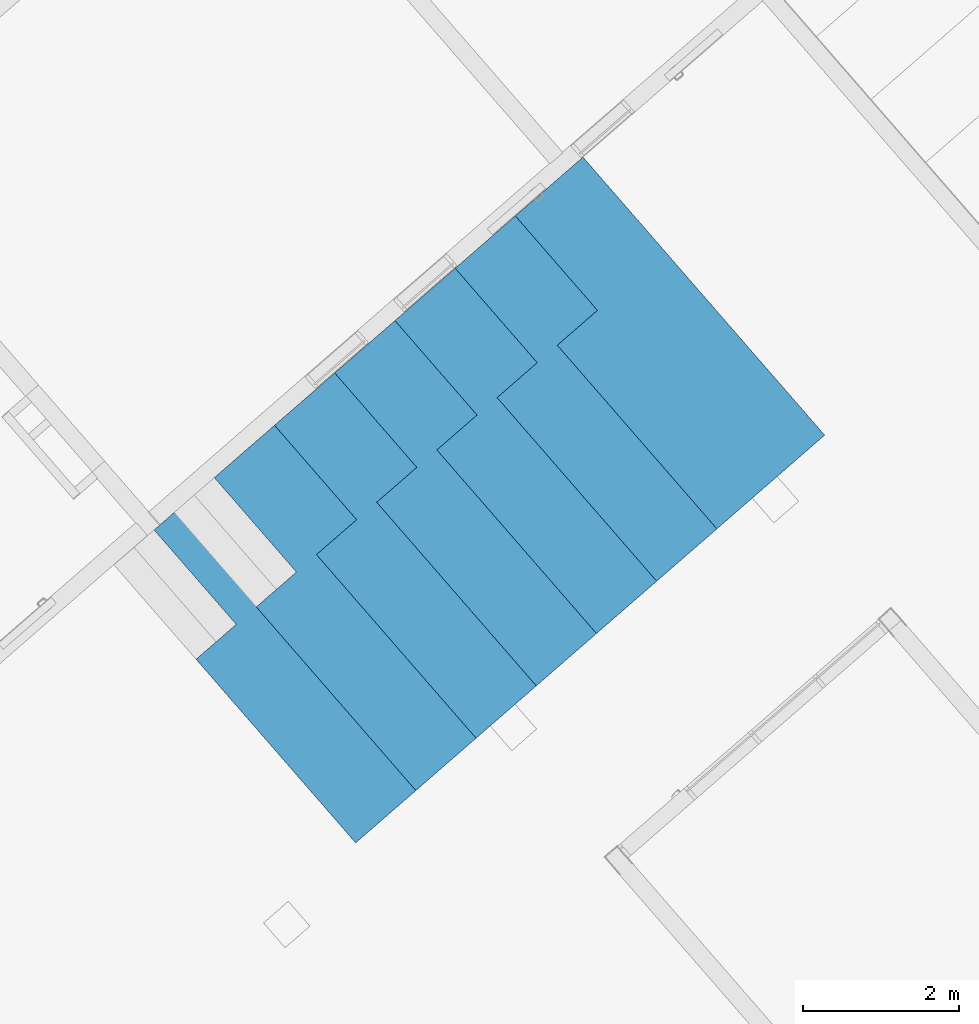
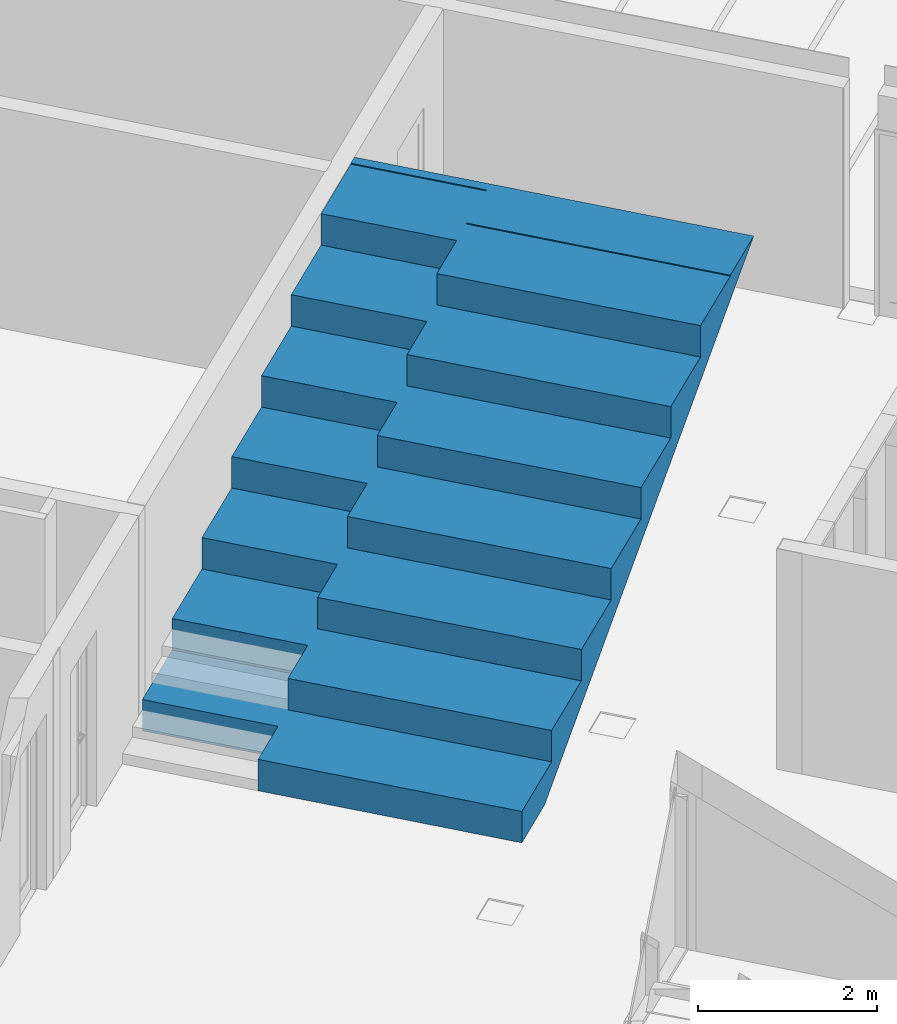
# One storey, part 103 of 124: 1 stair, 1 element without a shape of its own.
"""IFC2X3 building model written with IfcOpenShell, lengths in millimetres."""

from ifc_helpers import new_model, entity, si_unit, converted_unit, derived_unit, money_unit, direction, frame, origin_with_axes, place, context, subcontext, project, spatial, faceted_brep, material, element, aggregate, save


model = new_model("IFC2X3")

# Units and contexts
model_context = context("Model", 3, precision=1e-05, world=origin_with_axes(), true_north=direction((0.0, 1.0)))
body_context = subcontext(model_context, "Body", "Model", "MODEL_VIEW")
ifc_project = project(units=[si_unit("LENGTHUNIT", "METRE", prefix="MILLI"), si_unit("AREAUNIT", "SQUARE_METRE"), si_unit("VOLUMEUNIT", "CUBIC_METRE"), converted_unit("PLANEANGLEUNIT", "DEGREE", entity("IfcPlaneAngleMeasure", 0.0174532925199), si_unit("PLANEANGLEUNIT", "RADIAN"), dimensions=[0, 0, 0, 0, 0, 0, 0]), si_unit("SOLIDANGLEUNIT", "STERADIAN"), money_unit("EUR"), converted_unit("TIMEUNIT", "Year", entity("IfcTimeMeasure", 31556926.0), si_unit("TIMEUNIT", "SECOND"), dimensions=[0, 0, 1, 0, 0, 0, 0]), si_unit("MASSUNIT", "GRAM", prefix="KILO"), si_unit("THERMODYNAMICTEMPERATUREUNIT", "DEGREE_CELSIUS"), si_unit("LUMINOUSINTENSITYUNIT", "LUMEN"), si_unit("ENERGYUNIT", "JOULE", prefix="MEGA"), derived_unit("THERMALCONDUCTANCEUNIT", [(si_unit("POWERUNIT", "WATT"), 1), (si_unit("LENGTHUNIT", "METRE"), -1), (si_unit("THERMODYNAMICTEMPERATUREUNIT", "KELVIN"), -1)]), derived_unit("SPECIFICHEATCAPACITYUNIT", [(si_unit("ENERGYUNIT", "JOULE"), 1), (si_unit("MASSUNIT", "GRAM", prefix="KILO"), -1), (si_unit("THERMODYNAMICTEMPERATUREUNIT", "KELVIN"), -1)]), derived_unit("MASSDENSITYUNIT", [(si_unit("MASSUNIT", "GRAM", prefix="KILO"), 1), (si_unit("VOLUMEUNIT", "CUBIC_METRE"), -1)])], contexts=[model_context])

# Site, building, storey
site_placement = place(None, origin_with_axes())
site = spatial("IfcSite", under=ifc_project, at=site_placement, Name="Site", CompositionType="ELEMENT")
building_placement = place(site_placement, origin_with_axes())
building = spatial("IfcBuilding", under=site, at=building_placement, Name="Building", CompositionType="ELEMENT")
storey_placement = place(building_placement, frame((0.0, 0.0, -1615.0), z_axis=(0.0, 0.0, 1.0), x_axis=(1.0, 0.0, 0.0)))
storey = spatial("IfcBuildingStorey", under=building, at=storey_placement, Name="0  korrus", CompositionType="ELEMENT", Elevation=-1615.0)

# Stairs
stair_1_placement = place(storey_placement, frame((155389.01419, 96207.2876468, 0.0), z_axis=(0.0, 0.0, 1.0), x_axis=(0.891006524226, -0.453990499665, 0.0)))
stair_1 = element("IfcStair", 1, at=stair_1_placement, inside=storey, Name="T-03", ShapeType="NOTDEFINED")
ifc_material = material(Name="GENEERILINE - KONSTRUKTRIOON")
stair_2_placement = place(stair_1_placement, origin_with_axes())
stair_2 = element("IfcStair", 2, at=stair_2_placement, material=ifc_material, Name="GENEERILINE - KONSTRUKTRIOON", ShapeType="NOTDEFINED", context=body_context, shape_type="Brep", body=[
    faceted_brep([(4700.06252842, -1046.9060522, 2.10889083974e-08), (4991.16282476, -326.408590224, 2.20206075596e-08), (4995.32100582, -316.116746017, 4.6454520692), (5012.68915155, -273.129139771, 24.0488611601), (5030.05729728, -230.141533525, 43.452270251), (5047.42544301, -187.153927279, 62.8556793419), (5064.79358874, -144.166321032, 82.2590884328), (5082.16173447, -101.178714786, 101.662497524), (5099.5298802, -58.1911085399, 121.065906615), (5116.89802593, -15.2035022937, 140.469315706), (5134.26617166, 27.7841039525, 159.872724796), (5151.63431739, 70.7717101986, 179.276133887), (5169.00246311, 113.759316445, 198.679542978), (5186.37060884, 156.746922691, 218.082952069), (5203.73875457, 199.734528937, 237.48636116), (5221.1069003, 242.722135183, 256.889770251), (5238.47504603, 285.70974143, 276.293179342), (5255.84319176, 328.697347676, 295.696588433), (5273.21133749, 371.684953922, 315.099997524), (5290.57948322, 414.672560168, 334.503406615), (5307.94762895, 457.660166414, 353.906815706), (5325.31577468, 500.647772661, 373.310224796), (5342.68392041, 543.635378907, 392.713633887), (5360.05206614, 586.622985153, 412.117042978), (5377.42021187, 629.610591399, 431.520452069), (5394.7883576, 672.598197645, 450.92386116), (5412.15650333, 715.585803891, 470.327270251), (5429.52464906, 758.573410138, 489.730679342), (5446.89279479, 801.561016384, 509.134088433), (5464.26094052, 844.54862263, 528.537497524), (5481.62908625, 887.536228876, 547.940906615), (5498.99723198, 930.523835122, 567.344315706), (5516.36537771, 973.511441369, 586.747724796), (5533.73352344, 1016.49904761, 606.151133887), (5551.10166916, 1059.48665386, 625.554542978), (5568.46981489, 1102.47426011, 644.957952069), (5585.83796062, 1145.46186635, 664.36136116), (5603.20610635, 1188.4494726, 683.764770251), (5620.57425208, 1231.43707885, 703.168179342), (5637.94239781, 1274.42468509, 722.571588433), (5655.31054354, 1317.41229134, 741.974997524), (5672.67868927, 1360.39989758, 761.378406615), (5690.046835, 1403.38750383, 780.781815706), (5707.41498073, 1446.37511008, 800.185224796), (5724.78312646, 1489.36271632, 819.588633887), (5742.15127219, 1532.35032257, 838.992042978), (5759.51941792, 1575.33792882, 858.395452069), (5776.88756365, 1618.32553506, 877.79886116), (5794.25570938, 1661.31314131, 897.202270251), (5811.62385511, 1704.30074755, 916.605679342), (5828.99200084, 1747.2883538, 936.009088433), (5846.36014657, 1790.27596005, 955.412497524), (5863.7282923, 1833.26356629, 974.815906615), (5881.09643803, 1876.25117254, 994.219315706), (5898.46458376, 1919.23877878, 1013.6227248), (5915.83272949, 1962.22638503, 1033.02613389), (5933.20087521, 2005.21399128, 1052.42954298), (5950.56902094, 2048.20159752, 1071.83295207), (5967.93716667, 2091.18920377, 1091.23636116), (5985.3053124, 2134.17681002, 1110.63977025), (6002.67345813, 2177.16441626, 1130.04317934), (6020.04160386, 2220.15202251, 1149.44658843), (6037.40974959, 2263.13962875, 1168.84999752), (6054.77789532, 2306.127235, 1188.25340661), (6072.14604105, 2349.11484125, 1207.65681571), (6089.51418678, 2392.10244749, 1227.0602248), (6106.88233251, 2435.09005374, 1246.46363389), (6124.25047824, 2478.07765999, 1265.86704298), (6141.61862397, 2521.06526623, 1285.27045207), (6158.9867697, 2564.05287248, 1304.67386116), (6176.35491543, 2607.04047872, 1324.07727025), (6193.72306116, 2650.02808497, 1343.48067934), (6211.09120689, 2693.01569122, 1362.88408843), (6228.45935262, 2736.00329746, 1382.28749752), (6245.82749835, 2778.99090371, 1401.69090661), (6263.19564408, 2821.97850995, 1421.09431571), (6280.56378981, 2864.9661162, 1440.4977248), (6297.93193554, 2907.95372245, 1459.90113389), (6315.30008126, 2950.94132869, 1479.30454298), (6332.66822699, 2993.92893494, 1498.70795207), (6350.03637272, 3036.91654119, 1518.11136116), (6367.40451845, 3079.90414743, 1537.51477025), (6384.77266418, 3122.89175368, 1556.91817934), (6402.14080991, 3165.87935992, 1576.32158843), (6419.50895564, 3208.86696617, 1595.72499752), (6436.87710137, 3251.85457242, 1615.12840661), (6454.2452471, 3294.84217866, 1634.53181571), (6471.61339283, 3337.82978491, 1653.9352248), (6488.98153856, 3380.81739116, 1673.33863389), (6506.34968429, 3423.8049974, 1692.74204298), (6523.71783002, 3466.79260365, 1712.14545207), (6541.08597575, 3509.78020989, 1731.54886116), (6558.45412148, 3552.76781614, 1750.95227025), (6575.82226721, 3595.75542239, 1770.35567934), (6593.19041294, 3638.74302863, 1789.75908843), (6610.55855867, 3681.73063488, 1809.16249752), (6627.9267044, 3724.71824112, 1828.56590661), (6645.29485013, 3767.70584737, 1847.96931571), (6662.66299586, 3810.69345362, 1867.3727248), (6680.03114159, 3853.68105986, 1886.77613389), (6697.39928731, 3896.66866611, 1906.17954298), (6714.76743304, 3939.65627236, 1925.58295207), (6732.13557877, 3982.6438786, 1944.98636116), (6749.5037245, 4025.63148485, 1964.38977025), (6766.87187023, 4068.61909109, 1983.79317934), (6784.24001596, 4111.60669734, 2003.19658843), (6801.60816169, 4154.59430359, 2022.59999752), (6818.97630742, 4197.58190983, 2042.00340661), (6836.34445315, 4240.56951608, 2061.40681571), (6853.71259888, 4283.55712233, 2080.8102248), (6871.08074461, 4326.54472857, 2100.21363389), (6888.44889034, 4369.53233482, 2119.61704298), (6905.81703607, 4412.51994106, 2139.02045207), (6923.1851818, 4455.50754731, 2158.42386116), (6940.55332753, 4498.49515356, 2177.82727025), (6957.92147326, 4541.4827598, 2197.23067934), (6975.28961899, 4584.47036605, 2216.63408843), (6992.65776472, 4627.45797229, 2236.03749752), (7010.02591045, 4670.44557854, 2255.44090661), (7027.39405618, 4713.43318479, 2274.84431571), (7044.76220191, 4756.42079103, 2294.2477248), (7062.13034764, 4799.40839728, 2313.65113389), (7079.49849336, 4842.39600353, 2333.05454298), (7096.86663909, 4885.38360977, 2352.45795207), (7114.23478482, 4928.37121602, 2371.86136116), (7131.60293055, 4971.35882226, 2391.26477025), (7148.97107628, 5014.34642851, 2410.66817934), (7166.33922201, 5057.33403476, 2430.07158843), (7183.70736774, 5100.321641, 2449.47499752), (7201.07551347, 5143.30924725, 2468.87840661), (7218.4436592, 5186.29685349, 2488.28181571), (7235.81180493, 5229.28445974, 2507.6852248), (7253.17995066, 5272.27206599, 2527.08863389), (7270.54809639, 5315.25967223, 2546.49204298), (7287.91624212, 5358.24727848, 2565.89545207), (7305.28438785, 5401.23488473, 2585.29886116), (7322.65253358, 5444.22249097, 2604.70227025), (7340.02067931, 5487.21009722, 2624.10567934), (7357.38882504, 5530.19770346, 2643.50908843), (7374.75666145, 5573.18543468, 2662.91249752), (7676.48612042, 6319.99166208, 3000.0), (7374.75703968, 5573.18548027, 3000.0), (7374.75697077, 5573.18530971, 2988.125), (6992.65776472, 4627.45797229, 2988.125), (6992.65776472, 4627.45797229, 2561.25), (6610.55855867, 3681.73063488, 2561.25), (6610.55855867, 3681.73063488, 2134.375), (6228.45935262, 2736.00329746, 2134.375), (6228.45935262, 2736.00329746, 1707.5), (5846.36014657, 1790.27596005, 1707.5), (5846.36014657, 1790.27596005, 1280.625), (5464.26094052, 844.54862263, 1280.625), (5464.26094052, 844.54862263, 853.75), (5082.16173447, -101.178714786, 853.75), (5082.16173447, -101.178714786, 426.875), (4700.06252842, -1046.9060522, 426.875), (4468.39752874, -115.197703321, 2.20177209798e-08), (1816.52070249, 118.12045416, 2.1073365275e-08), (2071.25318818, 748.605474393, 2.18884910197e-08), (587.759033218, 1347.97603747, -5.59476909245e-08), (624.126470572, 1437.98860373, -5.61108937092e-08), (1146.89178798, 1226.77770838, 2.19997353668e-08), (2829.17097151, 609.069458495, 24.0488611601), (2863.90724096, 695.044679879, 62.8556793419), (2898.64351041, 781.019901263, 101.662497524), (2933.37977986, 866.995122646, 140.469315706), (2968.11604932, 952.97034403, 179.276133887), (3002.85231877, 1038.94556541, 218.082952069), (3037.58858822, 1124.9207868, 256.889770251), (3072.32485767, 1210.89600818, 295.696588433), (3107.06112713, 1296.87122957, 334.503406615), (3141.79739658, 1382.84645095, 373.310224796), (3176.53366603, 1468.82167233, 412.117042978), (3211.26993548, 1554.79689372, 450.92386116), (3246.00620493, 1640.7721151, 489.730679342), (3280.74247439, 1726.74733648, 528.537497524), (3315.47874384, 1812.72255787, 567.344315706), (3350.21501329, 1898.69777925, 606.151133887), (3384.95128274, 1984.67300063, 644.957952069), (3419.6875522, 2070.64822202, 683.764770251), (3454.42382165, 2156.6234434, 722.571588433), (3489.1600911, 2242.59866479, 761.378406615), (3523.89636055, 2328.57388617, 800.185224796), (3558.63263, 2414.54910755, 838.992042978), (3593.36889946, 2500.52432894, 877.79886116), (3628.10516891, 2586.49955032, 916.605679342), (3662.84143836, 2672.4747717, 955.412497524), (3697.57770781, 2758.44999309, 994.219315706), (3732.31397727, 2844.42521447, 1033.02613389), (3767.05024672, 2930.40043586, 1071.83295207), (3801.78651617, 3016.37565724, 1110.63977025), (3836.52278562, 3102.35087862, 1149.44658843), (3871.25905507, 3188.32610001, 1188.25340661), (3905.99532453, 3274.30132139, 1227.0602248), (3940.73159398, 3360.27654277, 1265.86704298), (3975.46786343, 3446.25176416, 1304.67386116), (4010.20413288, 3532.22698554, 1343.48067934), (4044.94040234, 3618.20220693, 1382.28749752), (4079.67667179, 3704.17742831, 1421.09431571), (4114.41294124, 3790.15264969, 1459.90113389), (4149.14921069, 3876.12787108, 1498.70795207), (4183.88548014, 3962.10309246, 1537.51477025), (4218.6217496, 4048.07831384, 1576.32158843), (4253.35801905, 4134.05353523, 1615.12840661), (4288.0942885, 4220.02875661, 1653.9352248), (4322.83055795, 4306.003978, 1692.74204298), (4357.56682741, 4391.97919938, 1731.54886116), (4392.30309686, 4477.95442076, 1770.35567934), (4427.03936631, 4563.92964215, 1809.16249752), (4461.77563576, 4649.90486353, 1847.96931571), (4496.51190521, 4735.88008491, 1886.77613389), (4531.24817467, 4821.8553063, 1925.58295207), (4565.98444412, 4907.83052768, 1964.38977025), (4600.72071357, 4993.80574907, 2003.19658843), (4635.45698302, 5079.78097045, 2042.00340661), (4670.19325247, 5165.75619183, 2080.8102248), (4704.92952193, 5251.73141322, 2119.61704298), (4739.66579138, 5337.7066346, 2158.42386116), (4774.40206083, 5423.68185598, 2197.23067934), (4809.13833028, 5509.65707737, 2236.03749752), (4843.8745995, 5595.63229885, 2274.84431571), (4878.61086872, 5681.60752032, 2313.65113389), (4913.34713794, 5767.5827418, 2352.45795207), (4948.08340716, 5853.55796328, 2391.26477025), (4982.81967638, 5939.53318476, 2430.07158843), (5017.5559456, 6025.50840623, 2468.87840661), (5052.29221482, 6111.48362771, 2507.6852248), (5087.02848404, 6197.45884919, 2546.49204298), (5121.76475326, 6283.43407067, 2585.29886116), (5156.50102248, 6369.40929215, 2624.10567934), (3007.71761543, 7337.58371641, 2662.91249752), (3309.44693451, 8084.39000032, 3000.0), (2990.34948914, 7294.59610231, 2643.50908843), (4491.21178291, 6738.21317427, 3000.0), (3262.45011136, 7968.06875851, 3000.0), (4745.9442686, 7368.69819451, 3000.0), (4644.76376904, 7118.26767272, 3000.0), (4491.21178291, 6738.21317427, 2988.125), (4745.9442686, 7368.69819451, 2988.125), (3262.45011136, 7968.06875851, 2988.125), (3007.71762207, 7337.58373973, 2988.125), (2880.35139459, 7022.34122343, 2988.125), (4363.84555182, 6422.97065943, 2988.125), (4109.11306614, 5792.4856392, 2988.125), (4109.11306614, 5792.4856392, 2561.25), (3981.74682993, 5477.24312642, 2561.25), (3727.01434425, 4846.75810619, 2561.25), (4363.84555182, 6422.97065943, 2561.25), (2880.35139459, 7022.34122343, 2561.25), (2625.6189053, 6391.85620466, 2561.25), (2498.2526747, 6076.61368961, 2561.25), (3727.01434425, 4846.75810619, 2134.375), (2116.15395281, 5130.88615661, 2134.375), (3599.64810804, 4531.51559341, 2134.375), (3344.91562236, 3901.03057318, 2134.375), (3981.74682993, 5477.24312642, 2134.375), (2498.2526727, 6076.61369042, 2134.375), (2243.52018341, 5446.12867165, 2134.375), (3344.91562236, 3901.03057318, 1707.5), (2116.15395081, 5130.88615741, 1707.5), (1861.42146152, 4500.40113864, 1707.5), (1734.05523092, 4185.1586236, 1707.5), (3217.54938615, 3585.78806041, 1707.5), (2962.81690047, 2955.30304017, 1707.5), (3599.64810804, 4531.51559341, 1707.5), (2962.81690047, 2955.30304017, 1280.625), (3217.54938615, 3585.78806041, 1280.625), (1734.05522892, 4185.15862441, 1280.625), (1479.32273962, 3554.67360563, 1280.625), (1351.95650903, 3239.43109059, 1280.625), (2835.45066426, 2640.0605274, 1280.625), (2580.71817858, 2009.57550717, 1280.625), (2580.71817858, 2009.57550717, 853.75), (2835.45066426, 2640.0605274, 853.75), (1351.95650703, 3239.4310914, 853.75), (1097.22401773, 2608.94607263, 853.75), (969.857778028, 2293.70354079, 853.75), (2453.35193526, 1694.33297679, 853.75), (2198.61944958, 1063.84795656, 853.75), (2198.61944958, 1063.84795656, 426.875), (587.759032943, 1347.97603758, 426.875), (2071.25318818, 748.605474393, 426.875), (1816.52070249, 118.12045416, 426.875), (2453.35193526, 1694.33297679, 426.875), (969.857778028, 2293.70354079, 426.875), (715.125288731, 1663.21852202, 426.875), (2972.98136565, 7251.60848707, 2624.10567934), (2955.61324216, 7208.62087184, 2604.70227025), (2938.24511867, 7165.63325661, 2585.29886116), (2920.87699518, 7122.64564138, 2565.89545207), (2903.50887169, 7079.65802615, 2546.49204298), (2886.1407482, 7036.67041092, 2527.08863389), (2868.77262471, 6993.68279568, 2507.6852248), (2851.40450122, 6950.69518045, 2488.28181571), (2834.03637773, 6907.70756522, 2468.87840661), (2816.66825424, 6864.71994999, 2449.47499752), (2799.30013075, 6821.73233476, 2430.07158843), (2781.93200726, 6778.74471953, 2410.66817934), (2764.56388377, 6735.75710429, 2391.26477025), (2747.19576028, 6692.76948906, 2371.86136116), (2729.82763679, 6649.78187383, 2352.45795207), (2712.4595133, 6606.7942586, 2333.05454298), (2695.09138981, 6563.80664337, 2313.65113389), (2677.72326632, 6520.81902814, 2294.2477248), (2660.35514283, 6477.83141291, 2274.84431571), (2642.98701934, 6434.84379767, 2255.44090661), (2625.61889585, 6391.85618244, 2236.03749752), (2608.25077213, 6348.8685673, 2216.63408843), (2590.8826484, 6305.88095217, 2197.23067934), (2573.51452468, 6262.89333703, 2177.82727025), (2556.14640096, 6219.90572189, 2158.42386116), (2538.77827724, 6176.91810675, 2139.02045207), (2521.41015351, 6133.93049162, 2119.61704298), (2504.04202979, 6090.94287648, 2100.21363389), (2486.67390607, 6047.95526134, 2080.8102248), (2469.30578235, 6004.9676462, 2061.40681571), (2451.93765862, 5961.98003107, 2042.00340661), (2434.5695349, 5918.99241593, 2022.59999752), (2417.20141118, 5876.00480079, 2003.19658843), (2399.83328746, 5833.01718565, 1983.79317934), (2382.46516373, 5790.02957052, 1964.38977025), (2365.09704001, 5747.04195538, 1944.98636116), (2347.72891629, 5704.05434024, 1925.58295207), (2330.36079256, 5661.0667251, 1906.17954298), (2312.99266884, 5618.07910997, 1886.77613389), (2295.62454512, 5575.09149483, 1867.3727248), (2278.2564214, 5532.10387969, 1847.96931571), (2260.88829767, 5489.11626455, 1828.56590661), (2243.52017395, 5446.12864942, 1809.16249752), (2226.15205023, 5403.14103428, 1789.75908843), (2208.78392651, 5360.15341914, 1770.35567934), (2191.41580278, 5317.165804, 1750.95227025), (2174.04767906, 5274.17818887, 1731.54886116), (2156.67955534, 5231.19057373, 1712.14545207), (2139.31143162, 5188.20295859, 1692.74204298), (2121.94330789, 5145.21534345, 1673.33863389), (2104.57518417, 5102.22772832, 1653.9352248), (2087.20706045, 5059.24011318, 1634.53181571), (2069.83893673, 5016.25249804, 1615.12840661), (2052.470813, 4973.2648829, 1595.72499752), (2035.10268928, 4930.27726777, 1576.32158843), (2017.73456556, 4887.28965263, 1556.91817934), (2000.36644183, 4844.30203749, 1537.51477025), (1982.99831811, 4801.31442235, 1518.11136116), (1965.63019439, 4758.32680722, 1498.70795207), (1948.26207067, 4715.33919208, 1479.30454298), (1930.89394694, 4672.35157694, 1459.90113389), (1913.52582322, 4629.3639618, 1440.4977248), (1896.1576995, 4586.37634666, 1421.09431571), (1878.78957578, 4543.38873153, 1401.69090661), (1861.42145205, 4500.40111639, 1382.28749752), (1844.05332833, 4457.41350125, 1362.88408843), (1826.68520461, 4414.42588611, 1343.48067934), (1809.31708089, 4371.43827098, 1324.07727025), (1791.94895716, 4328.45065584, 1304.67386116), (1774.58083344, 4285.4630407, 1285.27045207), (1757.21270972, 4242.47542556, 1265.86704298), (1739.84458599, 4199.48781043, 1246.46363389), (1722.47646227, 4156.50019529, 1227.0602248), (1705.10833855, 4113.51258015, 1207.65681571), (1687.74021483, 4070.52496501, 1188.25340661), (1670.3720911, 4027.53734988, 1168.84999752), (1653.00396738, 3984.54973474, 1149.44658843), (1635.63584366, 3941.5621196, 1130.04317934), (1618.26771994, 3898.57450446, 1110.63977025), (1600.89959621, 3855.58688933, 1091.23636116), (1583.53147249, 3812.59927419, 1071.83295207), (1566.16334877, 3769.61165905, 1052.42954298), (1548.79522505, 3726.62404391, 1033.02613389), (1531.42710132, 3683.63642878, 1013.6227248), (1514.0589776, 3640.64881364, 994.219315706), (1496.69085388, 3597.6611985, 974.815906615), (1479.32273016, 3554.67358336, 955.412497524), (1461.95460643, 3511.68596823, 936.009088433), (1444.58648271, 3468.69835309, 916.605679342), (1427.21835899, 3425.71073795, 897.202270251), (1409.85023526, 3382.72312281, 877.79886116), (1392.48211154, 3339.73550768, 858.395452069), (1375.11398782, 3296.74789254, 838.992042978), (1357.7458641, 3253.7602774, 819.588633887), (1340.37774037, 3210.77266226, 800.185224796), (1323.00961665, 3167.78504713, 780.781815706), (1305.64149293, 3124.79743199, 761.378406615), (1288.27336921, 3081.80981685, 741.974997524), (1270.90524548, 3038.82220171, 722.571588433), (1253.53712176, 2995.83458658, 703.168179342), (1236.16899804, 2952.84697144, 683.764770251), (1218.80087432, 2909.8593563, 664.36136116), (1201.43275059, 2866.87174116, 644.957952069), (1184.06462687, 2823.88412603, 625.554542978), (1166.69650315, 2780.89651089, 606.151133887), (1149.32837942, 2737.90889575, 586.747724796), (1131.9602557, 2694.92128061, 567.344315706), (1114.59213198, 2651.93366548, 547.940906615), (1097.22400826, 2608.94605034, 528.537497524), (1079.85588453, 2565.9584352, 509.134088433), (1062.48776081, 2522.97082006, 489.730679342), (1045.11963709, 2479.98320492, 470.327270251), (1027.75151337, 2436.99558979, 450.92386116), (1010.38338964, 2394.00797465, 431.520452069), (993.015265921, 2351.02035951, 412.117042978), (975.647142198, 2308.03274437, 392.713633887), (958.279018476, 2265.04512924, 373.310224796), (940.910894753, 2222.0575141, 353.906815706), (923.54277103, 2179.06989896, 334.503406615), (906.174647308, 2136.08228382, 315.099997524), (888.806523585, 2093.09466869, 295.696588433), (871.438399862, 2050.10705355, 276.293179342), (854.07027614, 2007.11943841, 256.889770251), (836.702152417, 1964.13182327, 237.48636116), (819.334028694, 1921.14420814, 218.082952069), (801.965904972, 1878.156593, 198.679542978), (784.597781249, 1835.16897786, 179.276133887), (767.229657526, 1792.18136272, 159.872724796), (749.861533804, 1749.19374759, 140.469315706), (732.493410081, 1706.20613245, 121.065906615), (715.125286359, 1663.21851731, 101.662497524), (697.757162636, 1620.23090217, 82.2590884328), (680.389038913, 1577.24328704, 62.8556793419), (663.020915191, 1534.2556719, 43.452270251), (645.652791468, 1491.26805676, 24.0488611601), (628.284667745, 1448.28044162, 4.6454520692)], [[[0, 1, 2, 3, 4, 5, 6, 7, 8, 9, 10, 11, 12, 13, 14, 15, 16, 17, 18, 19, 20, 21, 22, 23, 24, 25, 26, 27, 28, 29, 30, 31, 32, 33, 34, 35, 36, 37, 38, 39, 40, 41, 42, 43, 44, 45, 46, 47, 48, 49, 50, 51, 52, 53, 54, 55, 56, 57, 58, 59, 60, 61, 62, 63, 64, 65, 66, 67, 68, 69, 70, 71, 72, 73, 74, 75, 76, 77, 78, 79, 80, 81, 82, 83, 84, 85, 86, 87, 88, 89, 90, 91, 92, 93, 94, 95, 96, 97, 98, 99, 100, 101, 102, 103, 104, 105, 106, 107, 108, 109, 110, 111, 112, 113, 114, 115, 116, 117, 118, 119, 120, 121, 122, 123, 124, 125, 126, 127, 128, 129, 130, 131, 132, 133, 134, 135, 136, 137, 138, 139, 140, 141, 142, 143, 144, 145, 146, 147, 148, 149, 150, 151, 152, 153, 154, 155]], [[156, 1, 0, 157, 158, 159, 160, 161]], [[1, 156, 2]], [[3, 2, 162]], [[4, 3, 162]], [[5, 4, 163]], [[6, 5, 163]], [[7, 6, 164]], [[8, 7, 164]], [[9, 8, 165]], [[10, 9, 165]], [[11, 10, 166]], [[12, 11, 166]], [[13, 12, 167]], [[14, 13, 167]], [[15, 14, 168]], [[16, 15, 168]], [[17, 16, 169]], [[18, 17, 169]], [[19, 18, 170]], [[20, 19, 170]], [[21, 20, 171]], [[22, 21, 171]], [[23, 22, 172]], [[24, 23, 172]], [[25, 24, 173]], [[26, 25, 173]], [[27, 26, 174]], [[28, 27, 174]], [[29, 28, 175]], [[30, 29, 175]], [[31, 30, 176]], [[32, 31, 176]], [[33, 32, 177]], [[34, 33, 177]], [[35, 34, 178]], [[36, 35, 178]], [[37, 36, 179]], [[38, 37, 179]], [[39, 38, 180]], [[40, 39, 180]], [[41, 40, 181]], [[42, 41, 181]], [[43, 42, 182]], [[44, 43, 182]], [[45, 44, 183]], [[46, 45, 183]], [[47, 46, 184]], [[48, 47, 184]], [[49, 48, 185]], [[50, 49, 185]], [[51, 50, 186]], [[52, 51, 186]], [[53, 52, 187]], [[54, 53, 187]], [[55, 54, 188]], [[56, 55, 188]], [[57, 56, 189]], [[58, 57, 189]], [[59, 58, 190]], [[60, 59, 190]], [[61, 60, 191]], [[62, 61, 191]], [[63, 62, 192]], [[64, 63, 192]], [[65, 64, 193]], [[66, 65, 193]], [[67, 66, 194]], [[68, 67, 194]], [[69, 68, 195]], [[70, 69, 195]], [[71, 70, 196]], [[72, 71, 196]], [[73, 72, 197]], [[74, 73, 197]], [[75, 74, 198]], [[76, 75, 198]], [[77, 76, 199]], [[78, 77, 199]], [[79, 78, 200]], [[80, 79, 200]], [[81, 80, 201]], [[82, 81, 201]], [[83, 82, 202]], [[84, 83, 202]], [[85, 84, 203]], [[86, 85, 203]], [[87, 86, 204]], [[88, 87, 204]], [[89, 88, 205]], [[90, 89, 205]], [[91, 90, 206]], [[92, 91, 206]], [[93, 92, 207]], [[94, 93, 207]], [[95, 94, 208]], [[96, 95, 208]], [[97, 96, 209]], [[98, 97, 209]], [[99, 98, 210]], [[100, 99, 210]], [[101, 100, 211]], [[102, 101, 211]], [[103, 102, 212]], [[104, 103, 212]], [[105, 104, 213]], [[106, 105, 213]], [[107, 106, 214]], [[108, 107, 214]], [[109, 108, 215]], [[110, 109, 215]], [[111, 110, 216]], [[112, 111, 216]], [[113, 112, 217]], [[114, 113, 217]], [[115, 114, 218]], [[116, 115, 218]], [[117, 116, 219]], [[118, 117, 219]], [[119, 118, 220]], [[120, 119, 220]], [[121, 120, 221]], [[122, 121, 221]], [[123, 122, 222]], [[124, 123, 222]], [[125, 124, 223]], [[126, 125, 223]], [[127, 126, 224]], [[128, 127, 224]], [[129, 128, 225]], [[130, 129, 225]], [[131, 130, 226]], [[132, 131, 226]], [[133, 132, 227]], [[134, 133, 227]], [[135, 134, 228]], [[136, 135, 228]], [[137, 136, 229]], [[138, 137, 229]], [[230, 231, 140, 139, 138, 229, 232]], [[233, 141, 140, 231, 234, 235, 236]], [[142, 141, 233, 237]], [[143, 142, 237, 238, 239, 240, 241, 242, 243]], [[243, 244, 144, 143]], [[245, 246, 145, 144, 244, 247, 248, 249, 250]], [[145, 246, 251, 146]], [[252, 253, 254, 147, 146, 251, 255, 256, 257]], [[258, 148, 147, 254]], [[259, 260, 261, 262, 263, 149, 148, 258, 264]], [[149, 263, 265, 150]], [[265, 266, 267, 268, 269, 270, 271, 151, 150]], [[272, 152, 151, 271]], [[153, 152, 272, 273, 274, 275, 276, 277, 278]], [[154, 153, 278, 279]], [[280, 281, 282, 155, 154, 279, 283, 284, 285]], [[157, 0, 155, 282]], [[158, 157, 282, 281]], [[159, 158, 281, 280]], [[160, 159, 280, 285, 284, 276, 275, 274, 269, 268, 267, 261, 260, 259, 252, 257, 256, 250, 249, 248, 241, 240, 239, 234, 231, 230, 232, 286, 287, 288, 289, 290, 291, 292, 293, 294, 295, 296, 297, 298, 299, 300, 301, 302, 303, 304, 305, 306, 307, 308, 309, 310, 311, 312, 313, 314, 315, 316, 317, 318, 319, 320, 321, 322, 323, 324, 325, 326, 327, 328, 329, 330, 331, 332, 333, 334, 335, 336, 337, 338, 339, 340, 341, 342, 343, 344, 345, 346, 347, 348, 349, 350, 351, 352, 353, 354, 355, 356, 357, 358, 359, 360, 361, 362, 363, 364, 365, 366, 367, 368, 369, 370, 371, 372, 373, 374, 375, 376, 377, 378, 379, 380, 381, 382, 383, 384, 385, 386, 387, 388, 389, 390, 391, 392, 393, 394, 395, 396, 397, 398, 399, 400, 401, 402, 403, 404, 405, 406, 407, 408, 409, 410, 411, 412, 413, 414, 415, 416, 417, 418, 419, 420, 421]], [[161, 160, 421]], [[156, 161, 421, 162, 2]], [[162, 419, 163, 4]], [[6, 163, 417, 164]], [[8, 164, 415, 165]], [[165, 413, 166, 10]], [[166, 411, 167, 12]], [[167, 409, 168, 14]], [[16, 168, 407, 169]], [[18, 169, 405, 170]], [[170, 403, 171, 20]], [[22, 171, 401, 172]], [[24, 172, 399, 173]], [[26, 173, 397, 174]], [[174, 395, 175, 28]], [[30, 175, 393, 176]], [[32, 176, 391, 177]], [[34, 177, 389, 178]], [[178, 387, 179, 36]], [[179, 385, 180, 38]], [[180, 383, 181, 40]], [[42, 181, 381, 182]], [[44, 182, 379, 183]], [[183, 377, 184, 46]], [[184, 375, 185, 48]], [[185, 373, 186, 50]], [[186, 371, 187, 52]], [[54, 187, 369, 188]], [[56, 188, 367, 189]], [[189, 365, 190, 58]], [[60, 190, 363, 191]], [[191, 361, 192, 62]], [[192, 359, 193, 64]], [[193, 357, 194, 66]], [[68, 194, 355, 195]], [[195, 353, 196, 70]], [[196, 351, 197, 72]], [[197, 349, 198, 74]], [[198, 347, 199, 76]], [[78, 199, 345, 200]], [[200, 343, 201, 80]], [[201, 341, 202, 82]], [[84, 202, 339, 203]], [[203, 337, 204, 86]], [[88, 204, 335, 205]], [[205, 333, 206, 90]], [[92, 206, 331, 207]], [[94, 207, 329, 208]], [[208, 327, 209, 96]], [[98, 209, 325, 210]], [[100, 210, 323, 211]], [[211, 321, 212, 102]], [[212, 319, 213, 104]], [[106, 213, 317, 214]], [[214, 315, 215, 108]], [[215, 313, 216, 110]], [[216, 311, 217, 112]], [[114, 217, 309, 218]], [[116, 218, 307, 219]], [[219, 305, 220, 118]], [[120, 220, 303, 221]], [[221, 301, 222, 122]], [[124, 222, 299, 223]], [[223, 297, 224, 126]], [[128, 224, 295, 225]], [[130, 225, 293, 226]], [[132, 226, 291, 227]], [[227, 289, 228, 134]], [[136, 228, 287, 229]], [[286, 232, 229]], [[238, 235, 234, 239]], [[233, 236, 235, 238, 237]], [[242, 241, 248, 247]], [[243, 242, 247, 244]], [[246, 245, 255, 251]], [[250, 256, 255, 245]], [[264, 253, 252, 259]], [[264, 258, 254, 253]], [[261, 267, 266, 262]], [[263, 262, 266, 265]], [[273, 270, 269, 274]], [[273, 272, 271, 270]], [[284, 283, 277, 276]], [[283, 279, 278, 277]], [[287, 286, 229]], [[288, 287, 228]], [[289, 288, 228]], [[290, 289, 227]], [[291, 290, 227]], [[292, 291, 226]], [[293, 292, 226]], [[294, 293, 225]], [[295, 294, 225]], [[296, 295, 224]], [[297, 296, 224]], [[298, 297, 223]], [[299, 298, 223]], [[300, 299, 222]], [[301, 300, 222]], [[302, 301, 221]], [[303, 302, 221]], [[304, 303, 220]], [[305, 304, 220]], [[306, 305, 219]], [[307, 306, 219]], [[308, 307, 218]], [[309, 308, 218]], [[310, 309, 217]], [[311, 310, 217]], [[312, 311, 216]], [[313, 312, 216]], [[314, 313, 215]], [[315, 314, 215]], [[316, 315, 214]], [[317, 316, 214]], [[318, 317, 213]], [[319, 318, 213]], [[320, 319, 212]], [[321, 320, 212]], [[322, 321, 211]], [[323, 322, 211]], [[324, 323, 210]], [[325, 324, 210]], [[326, 325, 209]], [[327, 326, 209]], [[328, 327, 208]], [[329, 328, 208]], [[330, 329, 207]], [[331, 330, 207]], [[332, 331, 206]], [[333, 332, 206]], [[334, 333, 205]], [[335, 334, 205]], [[336, 335, 204]], [[337, 336, 204]], [[338, 337, 203]], [[339, 338, 203]], [[340, 339, 202]], [[341, 340, 202]], [[342, 341, 201]], [[343, 342, 201]], [[344, 343, 200]], [[345, 344, 200]], [[346, 345, 199]], [[347, 346, 199]], [[348, 347, 198]], [[349, 348, 198]], [[350, 349, 197]], [[351, 350, 197]], [[352, 351, 196]], [[353, 352, 196]], [[354, 353, 195]], [[355, 354, 195]], [[356, 355, 194]], [[357, 356, 194]], [[358, 357, 193]], [[359, 358, 193]], [[360, 359, 192]], [[361, 360, 192]], [[362, 361, 191]], [[363, 362, 191]], [[364, 363, 190]], [[365, 364, 190]], [[366, 365, 189]], [[367, 366, 189]], [[368, 367, 188]], [[369, 368, 188]], [[370, 369, 187]], [[371, 370, 187]], [[372, 371, 186]], [[373, 372, 186]], [[374, 373, 185]], [[375, 374, 185]], [[376, 375, 184]], [[377, 376, 184]], [[378, 377, 183]], [[379, 378, 183]], [[380, 379, 182]], [[381, 380, 182]], [[382, 381, 181]], [[383, 382, 181]], [[384, 383, 180]], [[385, 384, 180]], [[386, 385, 179]], [[387, 386, 179]], [[388, 387, 178]], [[389, 388, 178]], [[390, 389, 177]], [[391, 390, 177]], [[392, 391, 176]], [[393, 392, 176]], [[394, 393, 175]], [[395, 394, 175]], [[396, 395, 174]], [[397, 396, 174]], [[398, 397, 173]], [[399, 398, 173]], [[400, 399, 172]], [[401, 400, 172]], [[402, 401, 171]], [[403, 402, 171]], [[404, 403, 170]], [[405, 404, 170]], [[406, 405, 169]], [[407, 406, 169]], [[408, 407, 168]], [[409, 408, 168]], [[410, 409, 167]], [[411, 410, 167]], [[412, 411, 166]], [[413, 412, 166]], [[414, 413, 165]], [[415, 414, 165]], [[416, 415, 164]], [[417, 416, 164]], [[418, 417, 163]], [[419, 418, 163]], [[420, 419, 162]], [[421, 420, 162]]]),
])
aggregate(stair_1, [stair_2])

save(model, "model.ifc")
